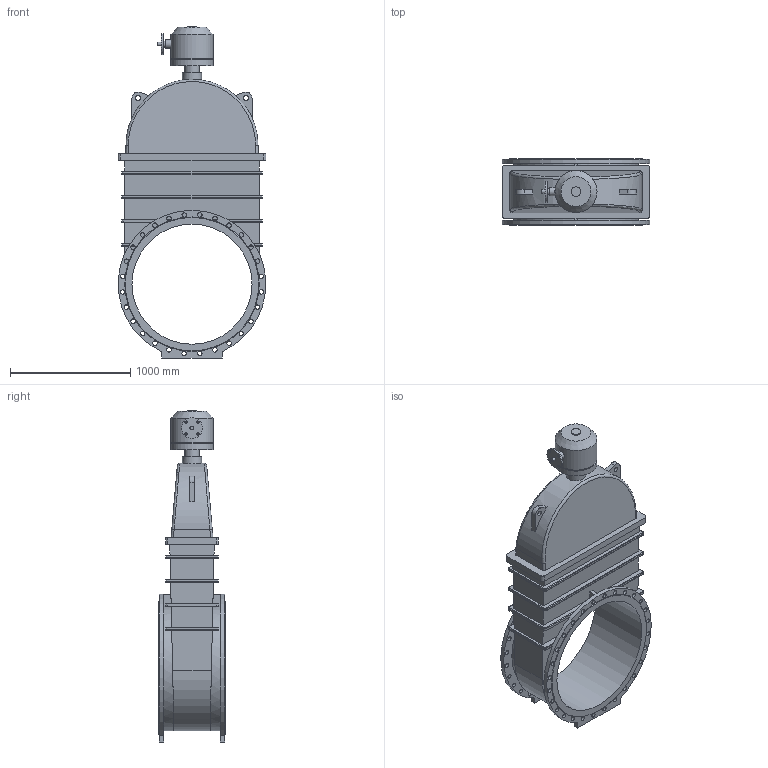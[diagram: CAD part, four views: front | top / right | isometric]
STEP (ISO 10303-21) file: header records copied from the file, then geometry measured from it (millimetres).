
FILE_DESCRIPTION(('STEP AP203'), '1');
FILE_NAME('Çàäâèæêà 47GV.Z DN1000 PN10 + ðåäóêòîð ñ âõîäíûì ôëàíöåì', '', ('UNSPECIFIED'), ('UNSPECIFIED'), 'ASCON STEP Converter 1.6', 'ASCON Math Kernel', '');
FILE_SCHEMA(('CONFIG_CONTROL_DESIGN'));
Length unit declared in the file: millimetre
Bounding box: 1230 x 550 x 2765 mm (x, y, z)
Volume: 572719798.4 mm3; surface area: 10451872.6 mm2
Topology: 1 solids, 1 shells, 286 faces, 717 edges, 455 vertices
Faces by surface type: cylinder 143, plane 108, bspline 32, cone 3
Full cylindrical faces by diameter (mm): 18 x4, 37 x56, 40 x2, 50 x1, 70 x1, 80 x1, 120 x1, 160 x1, 175 x1, 330 x1, 350 x2, 1000 x1
Entity records: 13815 total; most frequent: CARTESIAN_POINT 4876, DIRECTION 1293, ORIENTED_EDGE 1284, EDGE_CURVE 642, EDGE_LOOP 509, AXIS2_PLACEMENT_3D 496, VERTEX_POINT 455, FACE_BOUND 359
